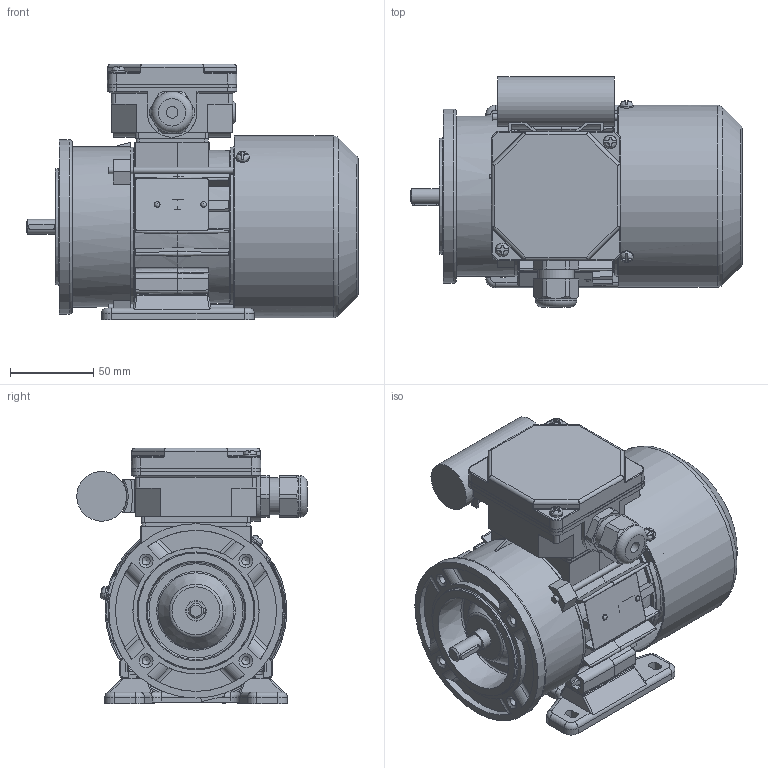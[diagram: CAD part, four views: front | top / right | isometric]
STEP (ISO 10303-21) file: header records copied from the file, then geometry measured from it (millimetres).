
FILE_DESCRIPTION( ( 'Unknown' ), '1' );
FILE_NAME( 'G:/Poczta Tk-1/STP/w.m.56/SEh56/SE(M)Lh56-C1.stp', 'Unknown', ( 'K. Szlosek' ), ( 'BESEL S.A.' ), 'PSStep 17.0.49', 'Unknown', ' ' );
FILE_SCHEMA( ( 'AUTOMOTIVE_DESIGN { 1 0 10303 214 1 1 1 1 }' ) );
Length unit declared in the file: millimetre
Products named in the file (32): Assem1; K4-2320 Uszczelka nr 1 Sh71,80; K3-2193 Tarcza łożyskowa P Sg56-2..; K2-0860 Pokrywka skrzynki zaciskowej; Wpust A3x3x16; K3-2977 Osłona przewietrznika Sg56; K4-2820 Uszczelka nr 2 Sh71,80; Wkręt samogwintujący M4x8; Wkręt samogwintujący M4x16; K2-0879 Przewietrznik Sg56; Nitokołek A 2x6; K3-9440 Podstawa  skrzynki zaciskowej SEhR71-D; K4-0898 Tulejka uszczelniająca; K3-1974 Uchwyt kondensatora (mały); Kondensator bb 8uF; K1-0484 Łapa Sg56-.. w. robocza; K3-9987 kadłub ze stojanem Sh56-C; K3-9990 wał Sh56-C; K1-0529 Tarcza kołnierzowa B14_1 SKg56-..1; Śruba ściągająca E_M4x85; Tabliczka znamionowa 32x44; Dławnica M20x1,5; Łożysko 6201
Assembly tree (47 placements, depth 2):
  Assem1
    K4-2320 Uszczelka nr 1 Sh71,80
    K3-2193 Tarcza łożyskowa P Sg56-2..
    K2-0860 Pokrywka skrzynki zaciskowej
    Wpust A3x3x16
    K3-2977 Osłona przewietrznika Sg56
    K4-2820 Uszczelka nr 2 Sh71,80
    Wkręt samogwintujący M4x8  x3
    Wkręt samogwintujący M4x16  x2
    K2-0879 Przewietrznik Sg56
    Nitokołek A 2x6  x2
    K3-9440 Podstawa  skrzynki zaciskowej SEhR71-D
    K4-0898 Tulejka uszczelniająca
    K3-1974 Uchwyt kondensatora (mały)
    Kondensator bb 8uF
    K1-0484 Łapa Sg56-.. w. robocza
    K3-9987 kadłub ze stojanem Sh56-C
    K3-9990 wał Sh56-C
    K1-0529 Tarcza kołnierzowa B14_1 SKg56-..1
    Śruba ściągająca E_M4x85  x3
    Tabliczka znamionowa 32x44
    Dławnica M20x1,5
    Łożysko 6201  x2
    Łożysko 6201  x2
    Łożysko 6201  x2
    Łożysko 6201  x2
    Łożysko 6201  x2
    Łożysko 6201  x2
    Łożysko 6201  x2
    Łożysko 6201  x2
    Łożysko 6201  x2
    Łożysko 6201  x2
Bounding box: 200 x 138.82 x 154 mm (x, y, z)
Volume: 554652.1 mm3; surface area: 338881.2 mm2
Topology: 47 solids, 63 shells, 1946 faces, 5226 edges, 3361 vertices
Faces by surface type: plane 1000, cylinder 586, torus 140, cone 108, bspline 78, sphere 34
Full cylindrical faces by diameter (mm): 2 x2, 2.4 x2, 3 x1, 3.242 x3, 3.5 x2, 3.7 x10, 4 x8, 4.5 x4, 4.6 x1, 4.8 x4, 4.917 x4, 5 x4, 5.8 x4, 6.5 x1, 7 x4, 8 x6, 9 x1, 10 x2, 10.9 x1, 11 x1, 11.5 x1, 11.8 x2, 12 x4, 12.4 x2, 15.5 x1, 16 x1, 16.1 x1, 17 x2, 18 x1, 18.38 x1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
Entity records: 80932 total; most frequent: CARTESIAN_POINT 22951, DIRECTION 9153, ORIENTED_EDGE 9012, EDGE_CURVE 4506, AXIS2_PLACEMENT_3D 3390, VERTEX_POINT 3042, LINE 2373, VECTOR 2373
